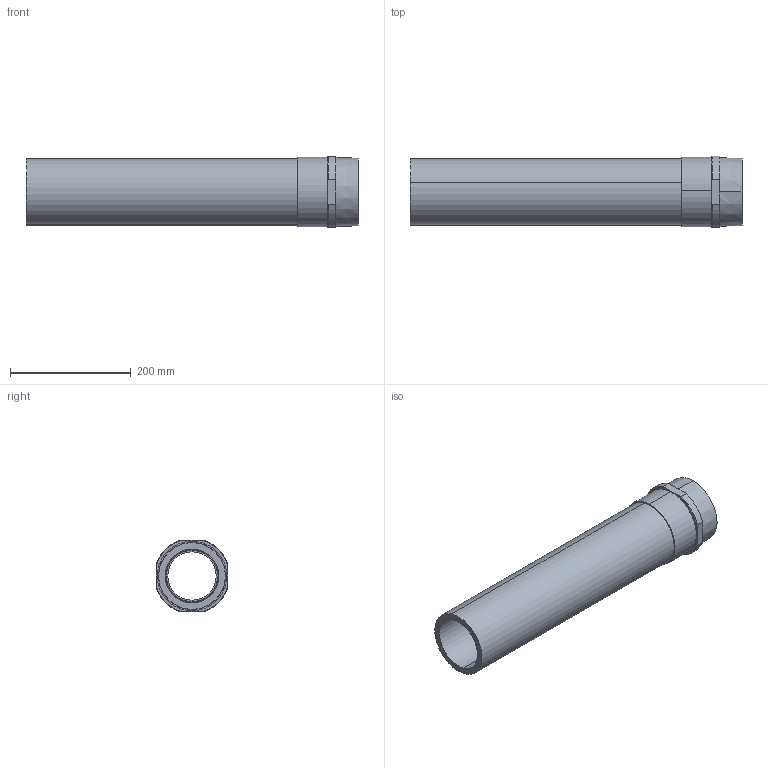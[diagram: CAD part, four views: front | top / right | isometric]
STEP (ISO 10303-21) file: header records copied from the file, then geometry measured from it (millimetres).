
FILE_DESCRIPTION (( 'STEP AP214' ), '1' );
FILE_NAME ('KP_C17-110ML.step', '2012-09-03T10:40:23', ( 'robinj' ), ( 'Microsoft' ), 'SwSTEP 2.0', 'SolidWorks 2012', '' );
FILE_SCHEMA (( 'AUTOMOTIVE_DESIGN' ));
Length unit declared in the file: millimetre
Products named in the file (1): KP_C17-110ML
Bounding box: 550 x 118 x 118 mm (x, y, z)
Volume: 1930752.8 mm3; surface area: 428569.9 mm2
Topology: 3 solids, 3 shells, 56 faces, 122 edges, 76 vertices
Faces by surface type: cylinder 22, cone 14, plane 14, torus 6
Entity records: 2236 total; most frequent: DIRECTION 298, CARTESIAN_POINT 279, ORIENTED_EDGE 244, AXIS2_PLACEMENT_3D 127, EDGE_CURVE 122, VERTEX_POINT 76, CIRCLE 70, EDGE_LOOP 66
